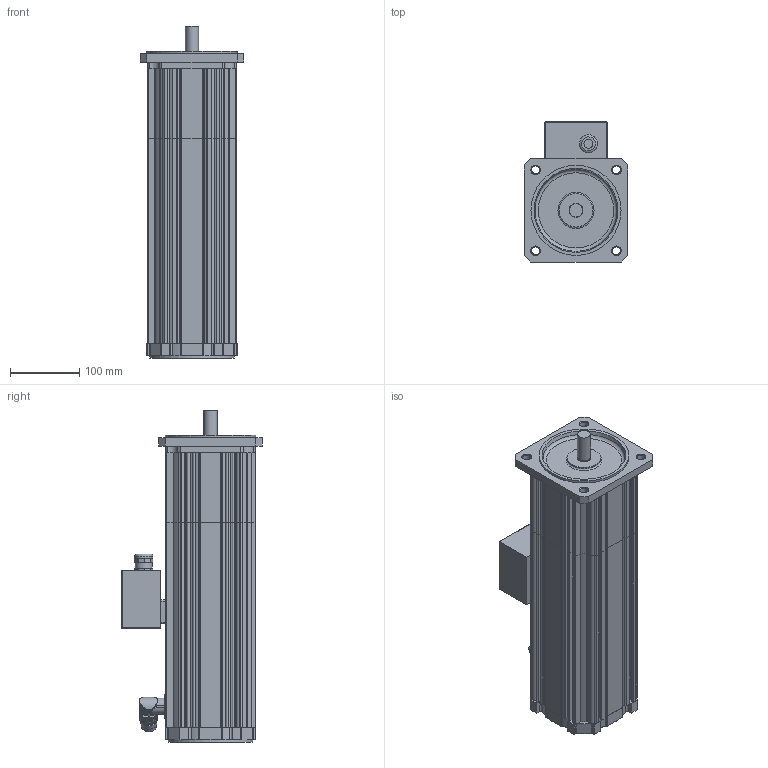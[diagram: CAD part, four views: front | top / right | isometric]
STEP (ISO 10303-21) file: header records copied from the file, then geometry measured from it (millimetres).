
FILE_DESCRIPTION(/* description */ (''),/* implementation_level */ '2;1');
FILE_NAME(/* name */ 'KSA6416_MC_Ix',/* time_stamp */ '2009-02-26T15:38:16+01:00',/* author */ (''),/* organization */ (''),/* preprocessor_version */ 'ST-DEVELOPER v8',/* originating_system */ 'UNIGRAPHICS SOLUTIONS - UNIGRAPHICS 18.0',/* authorisation */ '');
FILE_SCHEMA (('AUTOMOTIVE_DESIGN { 1 2 10303 214 0 1 1 1 }'));
Length unit declared in the file: millimetre
Products named in the file (7): 0280391350_0; Winkelflanschdose_0; 089106X_0; LagerschBS_0; LagerschAS_0; Klemmenkasten_0; KSA648_MC_Ix_0
Assembly tree (6 placements, depth 3):
  KSA648_MC_Ix_0
    LagerschAS_0
    Klemmenkasten_0
      0280391350_0
    LagerschBS_0
    089106X_0
    Winkelflanschdose_0
Bounding box: 149 x 202.35 x 479 mm (x, y, z)
Volume: 2670495.4 mm3; surface area: 723477.1 mm2
Topology: 7 solids, 7 shells, 781 faces, 2209 edges, 1459 vertices
Faces by surface type: cylinder 476, plane 287, cone 10, torus 4, sphere 4
Full cylindrical faces by diameter (mm): 13 x1, 16 x1, 18 x1, 19 x1, 20 x3, 21 x1, 21.5 x1, 23 x2, 24 x1, 26 x1, 48 x1, 114 x1, 119.7 x2, 121 x1, 122 x2, 130 x1
Entity records: 25889 total; most frequent: CARTESIAN_POINT 5021, DIRECTION 4458, ORIENTED_EDGE 4326, EDGE_CURVE 2163, AXIS2_PLACEMENT_3D 1647, VERTEX_POINT 1452, LINE 1164, VECTOR 1164
